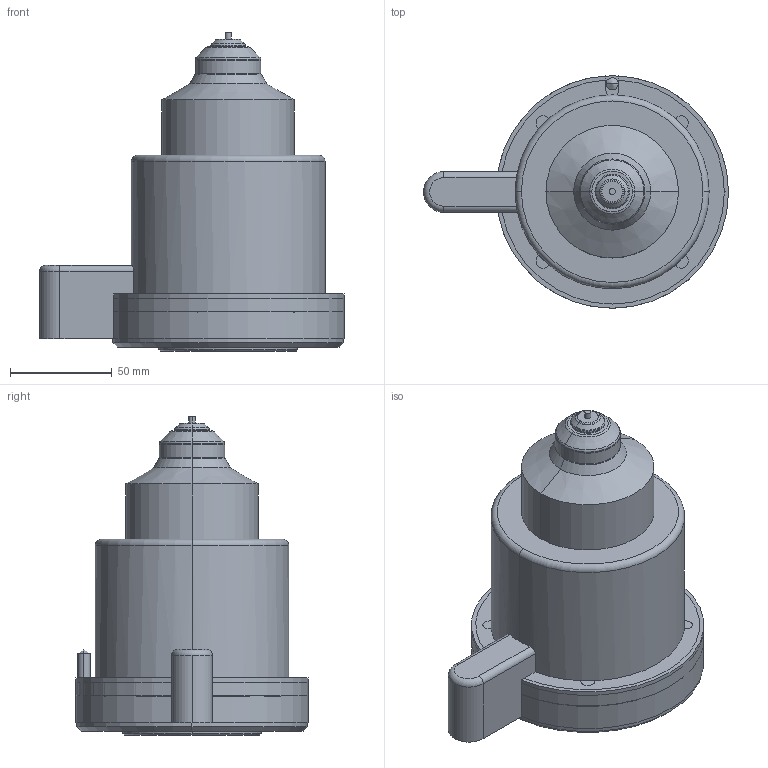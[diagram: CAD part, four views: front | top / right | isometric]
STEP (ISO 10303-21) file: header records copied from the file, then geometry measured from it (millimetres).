
FILE_DESCRIPTION (( 'STEP AP214' ), '1' );
FILE_NAME ('SR24_OPEN_150_BAND.STEP', '2009-05-07T18:32:17', ( 'Synventive Molding Solutions' ), ( 'Synventive Molding Solutions' ), 'SwSTEP 2.0', 'SolidWorks 2008', '' );
FILE_SCHEMA (( 'AUTOMOTIVE_DESIGN' ));
Length unit declared in the file: millimetre
Products named in the file (1): SR24_OPEN_150_BAND
Bounding box: 149.5 x 114 x 156 mm (x, y, z)
Volume: 1408076.9 mm3; surface area: 147422.3 mm2
Topology: 5 solids, 5 shells, 318 faces, 770 edges, 472 vertices
Faces by surface type: cylinder 127, plane 95, torus 48, cone 44, sphere 2, bspline 2
Entity records: 13687 total; most frequent: CARTESIAN_POINT 2571, DIRECTION 1682, ORIENTED_EDGE 1524, EDGE_CURVE 762, AXIS2_PLACEMENT_3D 687, VERTEX_POINT 472, CIRCLE 370, EDGE_LOOP 354
